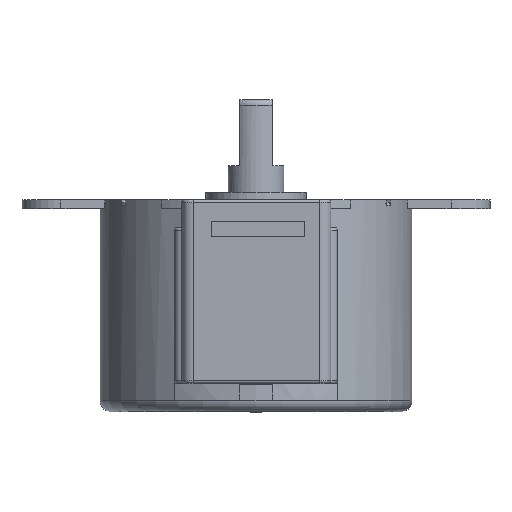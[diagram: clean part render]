
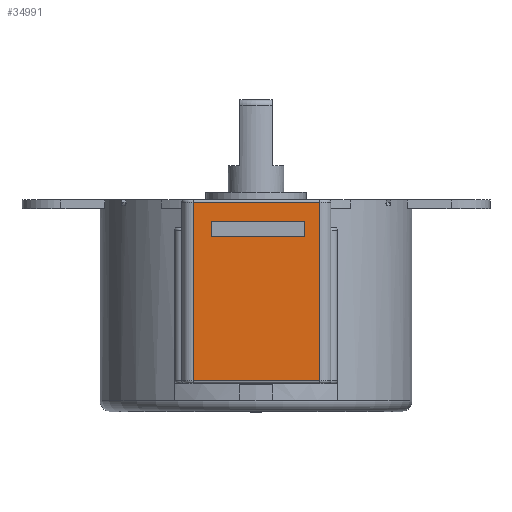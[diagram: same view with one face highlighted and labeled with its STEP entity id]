
A CAD part, top view. The second image highlights one B-rep face of the part: STEP entity #34991.
In plain terms, the highlighted planar face has unit normal (0, 0, 1).
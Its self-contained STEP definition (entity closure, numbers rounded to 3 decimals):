
#330=FACE_BOUND('',#5341,.T.);
#1733=PLANE('',#38176);
#3420=FACE_OUTER_BOUND('',#5340,.T.);
#5340=EDGE_LOOP('',(#30814,#30815,#30816,#30817));
#5341=EDGE_LOOP('',(#30818,#30819,#30820,#30821));
#8145=LINE('',#141252,#10917);
#8148=LINE('',#141276,#10920);
#8150=LINE('',#141282,#10922);
#8151=LINE('',#141283,#10923);
#8152=LINE('',#141286,#10924);
#8153=LINE('',#141288,#10925);
#8154=LINE('',#141290,#10926);
#8155=LINE('',#141291,#10927);
#10917=VECTOR('',#46607,10.);
#10920=VECTOR('',#46622,10.);
#10922=VECTOR('',#46628,10.);
#10923=VECTOR('',#46629,10.);
#10924=VECTOR('',#46630,10.);
#10925=VECTOR('',#46631,10.);
#10926=VECTOR('',#46632,10.);
#10927=VECTOR('',#46633,10.);
#16076=VERTEX_POINT('',#141242);
#16078=VERTEX_POINT('',#141248);
#16084=VERTEX_POINT('',#141275);
#16086=VERTEX_POINT('',#141281);
#16087=VERTEX_POINT('',#141284);
#16088=VERTEX_POINT('',#141285);
#16089=VERTEX_POINT('',#141287);
#16090=VERTEX_POINT('',#141289);
#21050=EDGE_CURVE('',#16076,#16078,#8145,.T.);
#21057=EDGE_CURVE('',#16084,#16078,#8148,.T.);
#21060=EDGE_CURVE('',#16086,#16076,#8150,.T.);
#21061=EDGE_CURVE('',#16084,#16086,#8151,.T.);
#21062=EDGE_CURVE('',#16087,#16088,#8152,.T.);
#21063=EDGE_CURVE('',#16088,#16089,#8153,.T.);
#21064=EDGE_CURVE('',#16089,#16090,#8154,.T.);
#21065=EDGE_CURVE('',#16090,#16087,#8155,.T.);
#30814=ORIENTED_EDGE('',*,*,#21050,.F.);
#30815=ORIENTED_EDGE('',*,*,#21060,.F.);
#30816=ORIENTED_EDGE('',*,*,#21061,.F.);
#30817=ORIENTED_EDGE('',*,*,#21057,.T.);
#30818=ORIENTED_EDGE('',*,*,#21062,.T.);
#30819=ORIENTED_EDGE('',*,*,#21063,.T.);
#30820=ORIENTED_EDGE('',*,*,#21064,.T.);
#30821=ORIENTED_EDGE('',*,*,#21065,.T.);
#34991=ADVANCED_FACE('',(#3420,#330),#1733,.T.);
#38176=AXIS2_PLACEMENT_3D('',#141280,#46626,#46627);
#46607=DIRECTION('',(1.,0.,0.));
#46622=DIRECTION('',(0.,1.,0.));
#46626=DIRECTION('center_axis',(0.,0.,1.));
#46627=DIRECTION('ref_axis',(1.,0.,0.));
#46628=DIRECTION('',(0.,1.,0.));
#46629=DIRECTION('',(-1.,0.,0.));
#46630=DIRECTION('',(0.,1.,0.));
#46631=DIRECTION('',(1.,0.,0.));
#46632=DIRECTION('',(0.,-1.,0.));
#46633=DIRECTION('',(-1.,0.,0.));
#141242=CARTESIAN_POINT('',(-10.142,32.75,19.196));
#141248=CARTESIAN_POINT('',(1.238,32.75,19.196));
#141252=CARTESIAN_POINT('',(-7.297,32.75,19.196));
#141275=CARTESIAN_POINT('',(1.238,16.75,19.196));
#141276=CARTESIAN_POINT('',(1.238,16.5,19.196));
#141280=CARTESIAN_POINT('Origin',(-10.142,16.5,19.196));
#141281=CARTESIAN_POINT('',(-10.142,16.75,19.196));
#141282=CARTESIAN_POINT('',(-10.142,16.5,19.196));
#141283=CARTESIAN_POINT('',(-7.317,16.75,19.196));
#141284=CARTESIAN_POINT('',(-8.492,29.712,19.196));
#141285=CARTESIAN_POINT('',(-8.492,31.,19.196));
#141286=CARTESIAN_POINT('',(-8.492,23.75,19.196));
#141287=CARTESIAN_POINT('',(-0.105,31.,19.196));
#141288=CARTESIAN_POINT('',(-5.123,31.,19.196));
#141289=CARTESIAN_POINT('',(-0.105,29.712,19.196));
#141290=CARTESIAN_POINT('',(-0.105,23.106,19.196));
#141291=CARTESIAN_POINT('',(-9.317,29.712,19.196));
